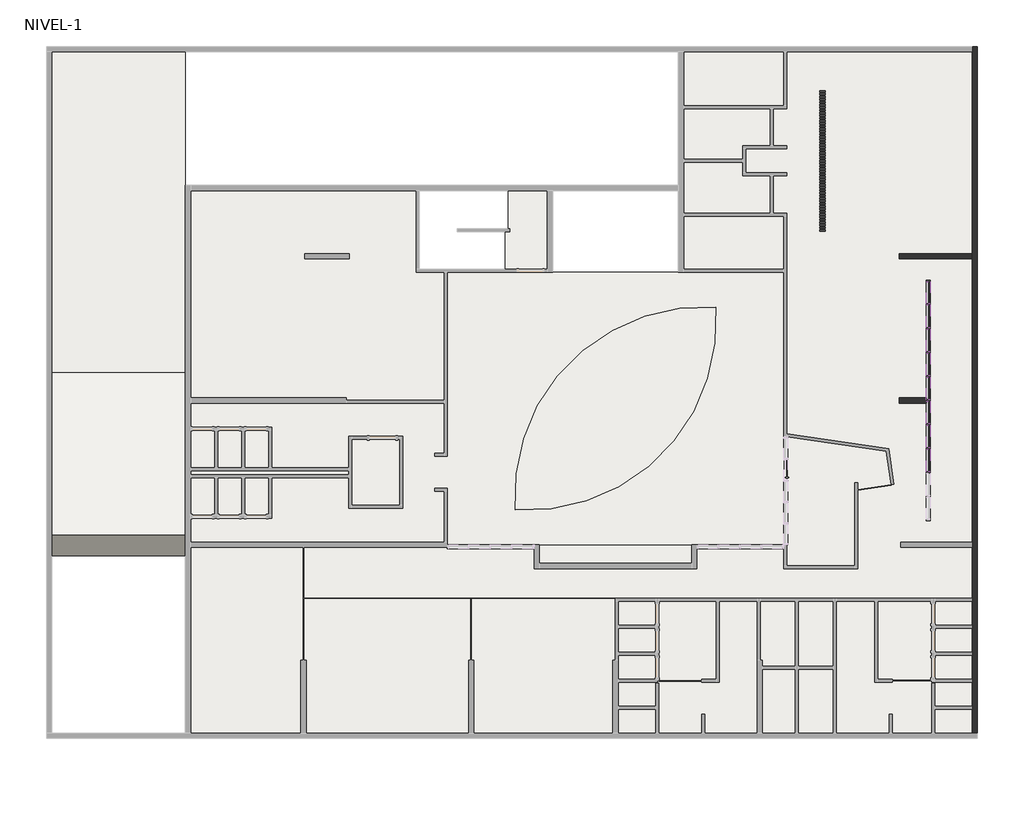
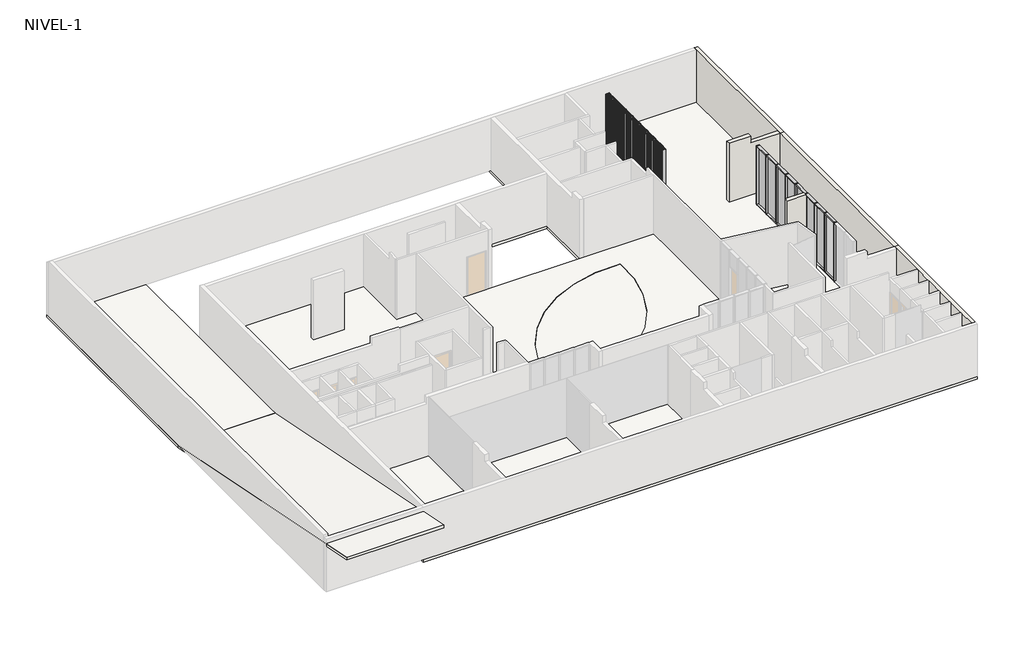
# One storey, part 4 of 4: 78 members, 7 plates, 4 slabs, 3 walls.
"""IFC4 building model written with IfcOpenShell, lengths in millimetres."""

from ifc_helpers import new_model, si_unit, point, frame, frame_2d, origin, place, context, project, spatial, polyline, circle_curve, trimmed, segment, composite_curve, outline, extrude, faceted_brep, transform, mapped, element, save
from components import rectangular_mullion_50_x_150mm_8dc60d6a, rectangular_mullion_50_x_150mm_86a57cfb, rectangular_mullion_50_x_150mm_24ac0887, rectangular_mullion_50_x_150mm_324a6438, rectangular_mullion_madera_50_x_200mm_c4610814, system_panel_glazed_17ea2be8, system_panel_glazed_1ee91bb5

model = new_model("IFC4")

# Units and contexts
model_context = context("Model", 3, world=origin())
ifc_project = project(units=[si_unit("LENGTHUNIT", "METRE", prefix="MILLI")], contexts=[model_context])

# Site, building, storey
site = spatial("IfcSite", under=ifc_project)
building = spatial("IfcBuilding", under=site)
storey = spatial("IfcBuildingStorey", under=building, Name="NIVEL-1", Elevation=-4500.0)

# Members
placement = place(None, origin())
rectangular_mullion_50_x_150mm_shape = rectangular_mullion_50_x_150mm_8dc60d6a(model_context)
element("IfcMember", 1, ObjectType="Rectangular Mullion : 50 x 150mm", at=placement, inside=storey, context=model_context, shape_type="MappedRepresentation", body=[
    mapped(rectangular_mullion_50_x_150mm_shape, transform((4516.4065252, 9583.9139237, -1170.0), x_axis=(0.0, 0.0, 1.0), y_axis=(1.0, 0.0, 0.0), z_axis=(0.0, 1.0, 0.0))),
])
element("IfcMember", 2, ObjectType="Rectangular Mullion : 50 x 150mm", at=placement, inside=storey, context=model_context, shape_type="MappedRepresentation", body=[
    mapped(rectangular_mullion_50_x_150mm_shape, transform((4516.4065252, 8758.9139241, -4520.0), x_axis=(0.0, 0.0, -1.0), y_axis=(1.0, 0.0, 0.0), z_axis=(0.0, -1.0, 0.0))),
])
rectangular_mullion_50_x_150mm_2_shape = rectangular_mullion_50_x_150mm_86a57cfb(model_context)
element("IfcMember", 3, ObjectType="Rectangular Mullion : 50 x 150mm", at=placement, inside=storey, context=model_context, shape_type="MappedRepresentation", body=[
    mapped(rectangular_mullion_50_x_150mm_2_shape, transform((4516.4065252, 2433.9139241, -4520.0), x_axis=(0.0, 1.0, 0.0), y_axis=(1.0, 0.0, 0.0), z_axis=(0.0, 0.0, -1.0))),
])
element("IfcMember", 4, ObjectType="Rectangular Mullion : 50 x 150mm", at=placement, inside=storey, context=model_context, shape_type="MappedRepresentation", body=[
    mapped(rectangular_mullion_50_x_150mm_2_shape, transform((4516.4065252, 3333.9139241, -4520.0), x_axis=(0.0, 1.0, 0.0), y_axis=(1.0, 0.0, 0.0), z_axis=(0.0, 0.0, -1.0))),
])
element("IfcMember", 5, ObjectType="Rectangular Mullion : 50 x 150mm", at=placement, inside=storey, context=model_context, shape_type="MappedRepresentation", body=[
    mapped(rectangular_mullion_50_x_150mm_2_shape, transform((4516.4065252, 4233.9139241, -4520.0), x_axis=(0.0, 1.0, 0.0), y_axis=(1.0, 0.0, 0.0), z_axis=(0.0, 0.0, -1.0))),
])
element("IfcMember", 6, ObjectType="Rectangular Mullion : 50 x 150mm", at=placement, inside=storey, context=model_context, shape_type="MappedRepresentation", body=[
    mapped(rectangular_mullion_50_x_150mm_2_shape, transform((4516.4065252, 5133.9139241, -4520.0), x_axis=(0.0, 1.0, 0.0), y_axis=(1.0, 0.0, 0.0), z_axis=(0.0, 0.0, -1.0))),
])
element("IfcMember", 7, ObjectType="Rectangular Mullion : 50 x 150mm", at=placement, inside=storey, context=model_context, shape_type="MappedRepresentation", body=[
    mapped(rectangular_mullion_50_x_150mm_2_shape, transform((4516.4065252, 6033.9139241, -4520.0), x_axis=(0.0, 1.0, 0.0), y_axis=(1.0, 0.0, 0.0), z_axis=(0.0, 0.0, -1.0))),
])
element("IfcMember", 8, ObjectType="Rectangular Mullion : 50 x 150mm", at=placement, inside=storey, context=model_context, shape_type="MappedRepresentation", body=[
    mapped(rectangular_mullion_50_x_150mm_2_shape, transform((4516.4065252, 6933.9139241, -4520.0), x_axis=(0.0, 1.0, 0.0), y_axis=(1.0, 0.0, 0.0), z_axis=(0.0, 0.0, -1.0))),
])
element("IfcMember", 9, ObjectType="Rectangular Mullion : 50 x 150mm", at=placement, inside=storey, context=model_context, shape_type="MappedRepresentation", body=[
    mapped(rectangular_mullion_50_x_150mm_2_shape, transform((4516.4065252, 7833.9139241, -4520.0), x_axis=(0.0, 1.0, 0.0), y_axis=(1.0, 0.0, 0.0), z_axis=(0.0, 0.0, -1.0))),
])
element("IfcMember", 10, ObjectType="Rectangular Mullion : 50 x 150mm", at=placement, inside=storey, context=model_context, shape_type="MappedRepresentation", body=[
    mapped(rectangular_mullion_50_x_150mm_2_shape, transform((4516.4065252, 8733.9139241, -4520.0), x_axis=(0.0, 1.0, 0.0), y_axis=(1.0, 0.0, 0.0), z_axis=(0.0, 0.0, -1.0))),
])
rectangular_mullion_50_x_150mm_3_shape = rectangular_mullion_50_x_150mm_24ac0887(model_context)
element("IfcMember", 11, ObjectType="Rectangular Mullion : 50 x 150mm", at=placement, inside=storey, context=model_context, shape_type="MappedRepresentation", body=[
    mapped(rectangular_mullion_50_x_150mm_3_shape, transform((4516.4065252, 9633.9139237, -4520.0), x_axis=(0.0, 1.0, 0.0), y_axis=(1.0, 0.0, 0.0), z_axis=(0.0, 0.0, -1.0))),
])
rectangular_mullion_50_x_150mm_4_shape = rectangular_mullion_50_x_150mm_324a6438(model_context)
element("IfcMember", 12, ObjectType="Rectangular Mullion : 50 x 150mm", at=placement, inside=storey, context=model_context, shape_type="MappedRepresentation", body=[
    mapped(rectangular_mullion_50_x_150mm_4_shape, transform((4516.4065252, 3308.9139241, -1170.0), x_axis=(0.0, 0.0, 1.0), y_axis=(1.0, 0.0, 0.0), z_axis=(0.0, 1.0, 0.0))),
])
element("IfcMember", 13, ObjectType="Rectangular Mullion : 50 x 150mm", at=placement, inside=storey, context=model_context, shape_type="MappedRepresentation", body=[
    mapped(rectangular_mullion_50_x_150mm_4_shape, transform((4516.4065252, 4208.9139241, -1170.0), x_axis=(0.0, 0.0, 1.0), y_axis=(1.0, 0.0, 0.0), z_axis=(0.0, 1.0, 0.0))),
])
element("IfcMember", 14, ObjectType="Rectangular Mullion : 50 x 150mm", at=placement, inside=storey, context=model_context, shape_type="MappedRepresentation", body=[
    mapped(rectangular_mullion_50_x_150mm_4_shape, transform((4516.4065252, 5108.9139241, -1170.0), x_axis=(0.0, 0.0, 1.0), y_axis=(1.0, 0.0, 0.0), z_axis=(0.0, 1.0, 0.0))),
])
element("IfcMember", 15, ObjectType="Rectangular Mullion : 50 x 150mm", at=placement, inside=storey, context=model_context, shape_type="MappedRepresentation", body=[
    mapped(rectangular_mullion_50_x_150mm_4_shape, transform((4516.4065252, 6008.9139241, -1170.0), x_axis=(0.0, 0.0, 1.0), y_axis=(1.0, 0.0, 0.0), z_axis=(0.0, 1.0, 0.0))),
])
element("IfcMember", 16, ObjectType="Rectangular Mullion : 50 x 150mm", at=placement, inside=storey, context=model_context, shape_type="MappedRepresentation", body=[
    mapped(rectangular_mullion_50_x_150mm_4_shape, transform((4516.4065252, 6908.9139241, -1170.0), x_axis=(0.0, 0.0, 1.0), y_axis=(1.0, 0.0, 0.0), z_axis=(0.0, 1.0, 0.0))),
])
element("IfcMember", 17, ObjectType="Rectangular Mullion : 50 x 150mm", at=placement, inside=storey, context=model_context, shape_type="MappedRepresentation", body=[
    mapped(rectangular_mullion_50_x_150mm_4_shape, transform((4516.4065252, 7808.9139241, -1170.0), x_axis=(0.0, 0.0, 1.0), y_axis=(1.0, 0.0, 0.0), z_axis=(0.0, 1.0, 0.0))),
])
element("IfcMember", 18, ObjectType="Rectangular Mullion : 50 x 150mm", at=placement, inside=storey, context=model_context, shape_type="MappedRepresentation", body=[
    mapped(rectangular_mullion_50_x_150mm_4_shape, transform((4516.4065252, 8708.9139241, -1170.0), x_axis=(0.0, 0.0, 1.0), y_axis=(1.0, 0.0, 0.0), z_axis=(0.0, 1.0, 0.0))),
])
element("IfcMember", 19, ObjectType="Rectangular Mullion : 50 x 150mm", at=placement, inside=storey, context=model_context, shape_type="MappedRepresentation", body=[
    mapped(rectangular_mullion_50_x_150mm_4_shape, transform((4516.4065252, 2458.9139241, -4520.0), x_axis=(0.0, 0.0, -1.0), y_axis=(1.0, 0.0, 0.0), z_axis=(0.0, -1.0, 0.0))),
])
element("IfcMember", 20, ObjectType="Rectangular Mullion : 50 x 150mm", at=placement, inside=storey, context=model_context, shape_type="MappedRepresentation", body=[
    mapped(rectangular_mullion_50_x_150mm_4_shape, transform((4516.4065252, 3358.9139241, -4520.0), x_axis=(0.0, 0.0, -1.0), y_axis=(1.0, 0.0, 0.0), z_axis=(0.0, -1.0, 0.0))),
])
element("IfcMember", 21, ObjectType="Rectangular Mullion : 50 x 150mm", at=placement, inside=storey, context=model_context, shape_type="MappedRepresentation", body=[
    mapped(rectangular_mullion_50_x_150mm_4_shape, transform((4516.4065252, 4258.9139241, -4520.0), x_axis=(0.0, 0.0, -1.0), y_axis=(1.0, 0.0, 0.0), z_axis=(0.0, -1.0, 0.0))),
])
element("IfcMember", 22, ObjectType="Rectangular Mullion : 50 x 150mm", at=placement, inside=storey, context=model_context, shape_type="MappedRepresentation", body=[
    mapped(rectangular_mullion_50_x_150mm_4_shape, transform((4516.4065252, 5158.9139241, -4520.0), x_axis=(0.0, 0.0, -1.0), y_axis=(1.0, 0.0, 0.0), z_axis=(0.0, -1.0, 0.0))),
])
element("IfcMember", 23, ObjectType="Rectangular Mullion : 50 x 150mm", at=placement, inside=storey, context=model_context, shape_type="MappedRepresentation", body=[
    mapped(rectangular_mullion_50_x_150mm_4_shape, transform((4516.4065252, 6058.9139241, -4520.0), x_axis=(0.0, 0.0, -1.0), y_axis=(1.0, 0.0, 0.0), z_axis=(0.0, -1.0, 0.0))),
])
element("IfcMember", 24, ObjectType="Rectangular Mullion : 50 x 150mm", at=placement, inside=storey, context=model_context, shape_type="MappedRepresentation", body=[
    mapped(rectangular_mullion_50_x_150mm_4_shape, transform((4516.4065252, 6958.9139241, -4520.0), x_axis=(0.0, 0.0, -1.0), y_axis=(1.0, 0.0, 0.0), z_axis=(0.0, -1.0, 0.0))),
])
element("IfcMember", 25, ObjectType="Rectangular Mullion : 50 x 150mm", at=placement, inside=storey, context=model_context, shape_type="MappedRepresentation", body=[
    mapped(rectangular_mullion_50_x_150mm_4_shape, transform((4516.4065252, 7858.9139241, -4520.0), x_axis=(0.0, 0.0, -1.0), y_axis=(1.0, 0.0, 0.0), z_axis=(0.0, -1.0, 0.0))),
])
rectangular_mullion_madera_50_x_200mm_shape = rectangular_mullion_madera_50_x_200mm_c4610814(model_context)
element("IfcMember", 26, ObjectType="Rectangular Mullion : MADERA 50 x 200mm", at=placement, inside=storey, context=model_context, shape_type="MappedRepresentation", body=[
    mapped(rectangular_mullion_madera_50_x_200mm_shape, transform((566.4065252, 16701.8639237, -4520.0), x_axis=(0.0, -1.0, 0.0), y_axis=(-1.0, 0.0, 0.0), z_axis=(0.0, 0.0, -1.0))),
])
element("IfcMember", 27, ObjectType="Rectangular Mullion : MADERA 50 x 200mm", at=placement, inside=storey, context=model_context, shape_type="MappedRepresentation", body=[
    mapped(rectangular_mullion_madera_50_x_200mm_shape, transform((566.4065252, 16601.8639237, -4520.0), x_axis=(0.0, -1.0, 0.0), y_axis=(-1.0, 0.0, 0.0), z_axis=(0.0, 0.0, -1.0))),
])
element("IfcMember", 28, ObjectType="Rectangular Mullion : MADERA 50 x 200mm", at=placement, inside=storey, context=model_context, shape_type="MappedRepresentation", body=[
    mapped(rectangular_mullion_madera_50_x_200mm_shape, transform((566.4065252, 16501.8639237, -4520.0), x_axis=(0.0, -1.0, 0.0), y_axis=(-1.0, 0.0, 0.0), z_axis=(0.0, 0.0, -1.0))),
])
element("IfcMember", 29, ObjectType="Rectangular Mullion : MADERA 50 x 200mm", at=placement, inside=storey, context=model_context, shape_type="MappedRepresentation", body=[
    mapped(rectangular_mullion_madera_50_x_200mm_shape, transform((566.4065252, 16401.8639237, -4520.0), x_axis=(0.0, -1.0, 0.0), y_axis=(-1.0, 0.0, 0.0), z_axis=(0.0, 0.0, -1.0))),
])
element("IfcMember", 30, ObjectType="Rectangular Mullion : MADERA 50 x 200mm", at=placement, inside=storey, context=model_context, shape_type="MappedRepresentation", body=[
    mapped(rectangular_mullion_madera_50_x_200mm_shape, transform((566.4065252, 16301.8639237, -4520.0), x_axis=(0.0, -1.0, 0.0), y_axis=(-1.0, 0.0, 0.0), z_axis=(0.0, 0.0, -1.0))),
])
element("IfcMember", 31, ObjectType="Rectangular Mullion : MADERA 50 x 200mm", at=placement, inside=storey, context=model_context, shape_type="MappedRepresentation", body=[
    mapped(rectangular_mullion_madera_50_x_200mm_shape, transform((566.4065252, 16201.8639237, -4520.0), x_axis=(0.0, -1.0, 0.0), y_axis=(-1.0, 0.0, 0.0), z_axis=(0.0, 0.0, -1.0))),
])
element("IfcMember", 32, ObjectType="Rectangular Mullion : MADERA 50 x 200mm", at=placement, inside=storey, context=model_context, shape_type="MappedRepresentation", body=[
    mapped(rectangular_mullion_madera_50_x_200mm_shape, transform((566.4065252, 16101.8639237, -4520.0), x_axis=(0.0, -1.0, 0.0), y_axis=(-1.0, 0.0, 0.0), z_axis=(0.0, 0.0, -1.0))),
])
element("IfcMember", 33, ObjectType="Rectangular Mullion : MADERA 50 x 200mm", at=placement, inside=storey, context=model_context, shape_type="MappedRepresentation", body=[
    mapped(rectangular_mullion_madera_50_x_200mm_shape, transform((566.4065252, 16001.8639237, -4520.0), x_axis=(0.0, -1.0, 0.0), y_axis=(-1.0, 0.0, 0.0), z_axis=(0.0, 0.0, -1.0))),
])
element("IfcMember", 34, ObjectType="Rectangular Mullion : MADERA 50 x 200mm", at=placement, inside=storey, context=model_context, shape_type="MappedRepresentation", body=[
    mapped(rectangular_mullion_madera_50_x_200mm_shape, transform((566.4065252, 15901.8639237, -4520.0), x_axis=(0.0, -1.0, 0.0), y_axis=(-1.0, 0.0, 0.0), z_axis=(0.0, 0.0, -1.0))),
])
element("IfcMember", 35, ObjectType="Rectangular Mullion : MADERA 50 x 200mm", at=placement, inside=storey, context=model_context, shape_type="MappedRepresentation", body=[
    mapped(rectangular_mullion_madera_50_x_200mm_shape, transform((566.4065252, 15801.8639237, -4520.0), x_axis=(0.0, -1.0, 0.0), y_axis=(-1.0, 0.0, 0.0), z_axis=(0.0, 0.0, -1.0))),
])
element("IfcMember", 36, ObjectType="Rectangular Mullion : MADERA 50 x 200mm", at=placement, inside=storey, context=model_context, shape_type="MappedRepresentation", body=[
    mapped(rectangular_mullion_madera_50_x_200mm_shape, transform((566.4065252, 15701.8639237, -4520.0), x_axis=(0.0, -1.0, 0.0), y_axis=(-1.0, 0.0, 0.0), z_axis=(0.0, 0.0, -1.0))),
])
element("IfcMember", 37, ObjectType="Rectangular Mullion : MADERA 50 x 200mm", at=placement, inside=storey, context=model_context, shape_type="MappedRepresentation", body=[
    mapped(rectangular_mullion_madera_50_x_200mm_shape, transform((566.4065252, 15601.8639237, -4520.0), x_axis=(0.0, -1.0, 0.0), y_axis=(-1.0, 0.0, 0.0), z_axis=(0.0, 0.0, -1.0))),
])
element("IfcMember", 38, ObjectType="Rectangular Mullion : MADERA 50 x 200mm", at=placement, inside=storey, context=model_context, shape_type="MappedRepresentation", body=[
    mapped(rectangular_mullion_madera_50_x_200mm_shape, transform((566.4065252, 15501.8639237, -4520.0), x_axis=(0.0, -1.0, 0.0), y_axis=(-1.0, 0.0, 0.0), z_axis=(0.0, 0.0, -1.0))),
])
element("IfcMember", 39, ObjectType="Rectangular Mullion : MADERA 50 x 200mm", at=placement, inside=storey, context=model_context, shape_type="MappedRepresentation", body=[
    mapped(rectangular_mullion_madera_50_x_200mm_shape, transform((566.4065252, 15401.8639237, -4520.0), x_axis=(0.0, -1.0, 0.0), y_axis=(-1.0, 0.0, 0.0), z_axis=(0.0, 0.0, -1.0))),
])
element("IfcMember", 40, ObjectType="Rectangular Mullion : MADERA 50 x 200mm", at=placement, inside=storey, context=model_context, shape_type="MappedRepresentation", body=[
    mapped(rectangular_mullion_madera_50_x_200mm_shape, transform((566.4065252, 15301.8639237, -4520.0), x_axis=(0.0, -1.0, 0.0), y_axis=(-1.0, 0.0, 0.0), z_axis=(0.0, 0.0, -1.0))),
])
element("IfcMember", 41, ObjectType="Rectangular Mullion : MADERA 50 x 200mm", at=placement, inside=storey, context=model_context, shape_type="MappedRepresentation", body=[
    mapped(rectangular_mullion_madera_50_x_200mm_shape, transform((566.4065252, 15201.8639237, -4520.0), x_axis=(0.0, -1.0, 0.0), y_axis=(-1.0, 0.0, 0.0), z_axis=(0.0, 0.0, -1.0))),
])
element("IfcMember", 42, ObjectType="Rectangular Mullion : MADERA 50 x 200mm", at=placement, inside=storey, context=model_context, shape_type="MappedRepresentation", body=[
    mapped(rectangular_mullion_madera_50_x_200mm_shape, transform((566.4065252, 15101.8639237, -4520.0), x_axis=(0.0, -1.0, 0.0), y_axis=(-1.0, 0.0, 0.0), z_axis=(0.0, 0.0, -1.0))),
])
element("IfcMember", 43, ObjectType="Rectangular Mullion : MADERA 50 x 200mm", at=placement, inside=storey, context=model_context, shape_type="MappedRepresentation", body=[
    mapped(rectangular_mullion_madera_50_x_200mm_shape, transform((566.4065252, 15001.8639237, -4520.0), x_axis=(0.0, -1.0, 0.0), y_axis=(-1.0, 0.0, 0.0), z_axis=(0.0, 0.0, -1.0))),
])
element("IfcMember", 44, ObjectType="Rectangular Mullion : MADERA 50 x 200mm", at=placement, inside=storey, context=model_context, shape_type="MappedRepresentation", body=[
    mapped(rectangular_mullion_madera_50_x_200mm_shape, transform((566.4065252, 14901.8639237, -4520.0), x_axis=(0.0, -1.0, 0.0), y_axis=(-1.0, 0.0, 0.0), z_axis=(0.0, 0.0, -1.0))),
])
element("IfcMember", 45, ObjectType="Rectangular Mullion : MADERA 50 x 200mm", at=placement, inside=storey, context=model_context, shape_type="MappedRepresentation", body=[
    mapped(rectangular_mullion_madera_50_x_200mm_shape, transform((566.4065252, 14801.8639237, -4520.0), x_axis=(0.0, -1.0, 0.0), y_axis=(-1.0, 0.0, 0.0), z_axis=(0.0, 0.0, -1.0))),
])
element("IfcMember", 46, ObjectType="Rectangular Mullion : MADERA 50 x 200mm", at=placement, inside=storey, context=model_context, shape_type="MappedRepresentation", body=[
    mapped(rectangular_mullion_madera_50_x_200mm_shape, transform((566.4065252, 14701.8639237, -4520.0), x_axis=(0.0, -1.0, 0.0), y_axis=(-1.0, 0.0, 0.0), z_axis=(0.0, 0.0, -1.0))),
])
element("IfcMember", 47, ObjectType="Rectangular Mullion : MADERA 50 x 200mm", at=placement, inside=storey, context=model_context, shape_type="MappedRepresentation", body=[
    mapped(rectangular_mullion_madera_50_x_200mm_shape, transform((566.4065252, 14601.8639237, -4520.0), x_axis=(0.0, -1.0, 0.0), y_axis=(-1.0, 0.0, 0.0), z_axis=(0.0, 0.0, -1.0))),
])
element("IfcMember", 48, ObjectType="Rectangular Mullion : MADERA 50 x 200mm", at=placement, inside=storey, context=model_context, shape_type="MappedRepresentation", body=[
    mapped(rectangular_mullion_madera_50_x_200mm_shape, transform((566.4065252, 14501.8639237, -4520.0), x_axis=(0.0, -1.0, 0.0), y_axis=(-1.0, 0.0, 0.0), z_axis=(0.0, 0.0, -1.0))),
])
element("IfcMember", 49, ObjectType="Rectangular Mullion : MADERA 50 x 200mm", at=placement, inside=storey, context=model_context, shape_type="MappedRepresentation", body=[
    mapped(rectangular_mullion_madera_50_x_200mm_shape, transform((566.4065252, 14401.8639237, -4520.0), x_axis=(0.0, -1.0, 0.0), y_axis=(-1.0, 0.0, 0.0), z_axis=(0.0, 0.0, -1.0))),
])
element("IfcMember", 50, ObjectType="Rectangular Mullion : MADERA 50 x 200mm", at=placement, inside=storey, context=model_context, shape_type="MappedRepresentation", body=[
    mapped(rectangular_mullion_madera_50_x_200mm_shape, transform((566.4065252, 14301.8639237, -4520.0), x_axis=(0.0, -1.0, 0.0), y_axis=(-1.0, 0.0, 0.0), z_axis=(0.0, 0.0, -1.0))),
])
element("IfcMember", 51, ObjectType="Rectangular Mullion : MADERA 50 x 200mm", at=placement, inside=storey, context=model_context, shape_type="MappedRepresentation", body=[
    mapped(rectangular_mullion_madera_50_x_200mm_shape, transform((566.4065252, 14201.8639237, -4520.0), x_axis=(0.0, -1.0, 0.0), y_axis=(-1.0, 0.0, 0.0), z_axis=(0.0, 0.0, -1.0))),
])
element("IfcMember", 52, ObjectType="Rectangular Mullion : MADERA 50 x 200mm", at=placement, inside=storey, context=model_context, shape_type="MappedRepresentation", body=[
    mapped(rectangular_mullion_madera_50_x_200mm_shape, transform((566.4065252, 14101.8639237, -4520.0), x_axis=(0.0, -1.0, 0.0), y_axis=(-1.0, 0.0, 0.0), z_axis=(0.0, 0.0, -1.0))),
])
element("IfcMember", 53, ObjectType="Rectangular Mullion : MADERA 50 x 200mm", at=placement, inside=storey, context=model_context, shape_type="MappedRepresentation", body=[
    mapped(rectangular_mullion_madera_50_x_200mm_shape, transform((566.4065252, 14001.8639237, -4520.0), x_axis=(0.0, -1.0, 0.0), y_axis=(-1.0, 0.0, 0.0), z_axis=(0.0, 0.0, -1.0))),
])
element("IfcMember", 54, ObjectType="Rectangular Mullion : MADERA 50 x 200mm", at=placement, inside=storey, context=model_context, shape_type="MappedRepresentation", body=[
    mapped(rectangular_mullion_madera_50_x_200mm_shape, transform((566.4065252, 13901.8639237, -4520.0), x_axis=(0.0, -1.0, 0.0), y_axis=(-1.0, 0.0, 0.0), z_axis=(0.0, 0.0, -1.0))),
])
element("IfcMember", 55, ObjectType="Rectangular Mullion : MADERA 50 x 200mm", at=placement, inside=storey, context=model_context, shape_type="MappedRepresentation", body=[
    mapped(rectangular_mullion_madera_50_x_200mm_shape, transform((566.4065252, 13801.8639237, -4520.0), x_axis=(0.0, -1.0, 0.0), y_axis=(-1.0, 0.0, 0.0), z_axis=(0.0, 0.0, -1.0))),
])
element("IfcMember", 56, ObjectType="Rectangular Mullion : MADERA 50 x 200mm", at=placement, inside=storey, context=model_context, shape_type="MappedRepresentation", body=[
    mapped(rectangular_mullion_madera_50_x_200mm_shape, transform((566.4065252, 13701.8639237, -4520.0), x_axis=(0.0, -1.0, 0.0), y_axis=(-1.0, 0.0, 0.0), z_axis=(0.0, 0.0, -1.0))),
])
element("IfcMember", 57, ObjectType="Rectangular Mullion : MADERA 50 x 200mm", at=placement, inside=storey, context=model_context, shape_type="MappedRepresentation", body=[
    mapped(rectangular_mullion_madera_50_x_200mm_shape, transform((566.4065252, 13601.8639237, -4520.0), x_axis=(0.0, -1.0, 0.0), y_axis=(-1.0, 0.0, 0.0), z_axis=(0.0, 0.0, -1.0))),
])
element("IfcMember", 58, ObjectType="Rectangular Mullion : MADERA 50 x 200mm", at=placement, inside=storey, context=model_context, shape_type="MappedRepresentation", body=[
    mapped(rectangular_mullion_madera_50_x_200mm_shape, transform((566.4065252, 13501.8639237, -4520.0), x_axis=(0.0, -1.0, 0.0), y_axis=(-1.0, 0.0, 0.0), z_axis=(0.0, 0.0, -1.0))),
])
element("IfcMember", 59, ObjectType="Rectangular Mullion : MADERA 50 x 200mm", at=placement, inside=storey, context=model_context, shape_type="MappedRepresentation", body=[
    mapped(rectangular_mullion_madera_50_x_200mm_shape, transform((566.4065252, 13401.8639237, -4520.0), x_axis=(0.0, -1.0, 0.0), y_axis=(-1.0, 0.0, 0.0), z_axis=(0.0, 0.0, -1.0))),
])
element("IfcMember", 60, ObjectType="Rectangular Mullion : MADERA 50 x 200mm", at=placement, inside=storey, context=model_context, shape_type="MappedRepresentation", body=[
    mapped(rectangular_mullion_madera_50_x_200mm_shape, transform((566.4065252, 13301.8639237, -4520.0), x_axis=(0.0, -1.0, 0.0), y_axis=(-1.0, 0.0, 0.0), z_axis=(0.0, 0.0, -1.0))),
])
element("IfcMember", 61, ObjectType="Rectangular Mullion : MADERA 50 x 200mm", at=placement, inside=storey, context=model_context, shape_type="MappedRepresentation", body=[
    mapped(rectangular_mullion_madera_50_x_200mm_shape, transform((566.4065252, 13201.8639237, -4520.0), x_axis=(0.0, -1.0, 0.0), y_axis=(-1.0, 0.0, 0.0), z_axis=(0.0, 0.0, -1.0))),
])
element("IfcMember", 62, ObjectType="Rectangular Mullion : MADERA 50 x 200mm", at=placement, inside=storey, context=model_context, shape_type="MappedRepresentation", body=[
    mapped(rectangular_mullion_madera_50_x_200mm_shape, transform((566.4065252, 13101.8639237, -4520.0), x_axis=(0.0, -1.0, 0.0), y_axis=(-1.0, 0.0, 0.0), z_axis=(0.0, 0.0, -1.0))),
])
element("IfcMember", 63, ObjectType="Rectangular Mullion : MADERA 50 x 200mm", at=placement, inside=storey, context=model_context, shape_type="MappedRepresentation", body=[
    mapped(rectangular_mullion_madera_50_x_200mm_shape, transform((566.4065252, 13001.8639237, -4520.0), x_axis=(0.0, -1.0, 0.0), y_axis=(-1.0, 0.0, 0.0), z_axis=(0.0, 0.0, -1.0))),
])
element("IfcMember", 64, ObjectType="Rectangular Mullion : MADERA 50 x 200mm", at=placement, inside=storey, context=model_context, shape_type="MappedRepresentation", body=[
    mapped(rectangular_mullion_madera_50_x_200mm_shape, transform((566.4065252, 12901.8639237, -4520.0), x_axis=(0.0, -1.0, 0.0), y_axis=(-1.0, 0.0, 0.0), z_axis=(0.0, 0.0, -1.0))),
])
element("IfcMember", 65, ObjectType="Rectangular Mullion : MADERA 50 x 200mm", at=placement, inside=storey, context=model_context, shape_type="MappedRepresentation", body=[
    mapped(rectangular_mullion_madera_50_x_200mm_shape, transform((566.4065252, 12801.8639237, -4520.0), x_axis=(0.0, -1.0, 0.0), y_axis=(-1.0, 0.0, 0.0), z_axis=(0.0, 0.0, -1.0))),
])
element("IfcMember", 66, ObjectType="Rectangular Mullion : MADERA 50 x 200mm", at=placement, inside=storey, context=model_context, shape_type="MappedRepresentation", body=[
    mapped(rectangular_mullion_madera_50_x_200mm_shape, transform((566.4065252, 12701.8639237, -4520.0), x_axis=(0.0, -1.0, 0.0), y_axis=(-1.0, 0.0, 0.0), z_axis=(0.0, 0.0, -1.0))),
])
element("IfcMember", 67, ObjectType="Rectangular Mullion : MADERA 50 x 200mm", at=placement, inside=storey, context=model_context, shape_type="MappedRepresentation", body=[
    mapped(rectangular_mullion_madera_50_x_200mm_shape, transform((566.4065252, 12601.8639237, -4520.0), x_axis=(0.0, -1.0, 0.0), y_axis=(-1.0, 0.0, 0.0), z_axis=(0.0, 0.0, -1.0))),
])
element("IfcMember", 68, ObjectType="Rectangular Mullion : MADERA 50 x 200mm", at=placement, inside=storey, context=model_context, shape_type="MappedRepresentation", body=[
    mapped(rectangular_mullion_madera_50_x_200mm_shape, transform((566.4065252, 12501.8639237, -4520.0), x_axis=(0.0, -1.0, 0.0), y_axis=(-1.0, 0.0, 0.0), z_axis=(0.0, 0.0, -1.0))),
])
element("IfcMember", 69, ObjectType="Rectangular Mullion : MADERA 50 x 200mm", at=placement, inside=storey, context=model_context, shape_type="MappedRepresentation", body=[
    mapped(rectangular_mullion_madera_50_x_200mm_shape, transform((566.4065252, 12401.8639237, -4520.0), x_axis=(0.0, -1.0, 0.0), y_axis=(-1.0, 0.0, 0.0), z_axis=(0.0, 0.0, -1.0))),
])
element("IfcMember", 70, ObjectType="Rectangular Mullion : MADERA 50 x 200mm", at=placement, inside=storey, context=model_context, shape_type="MappedRepresentation", body=[
    mapped(rectangular_mullion_madera_50_x_200mm_shape, transform((566.4065252, 12301.8639237, -4520.0), x_axis=(0.0, -1.0, 0.0), y_axis=(-1.0, 0.0, 0.0), z_axis=(0.0, 0.0, -1.0))),
])
element("IfcMember", 71, ObjectType="Rectangular Mullion : MADERA 50 x 200mm", at=placement, inside=storey, context=model_context, shape_type="MappedRepresentation", body=[
    mapped(rectangular_mullion_madera_50_x_200mm_shape, transform((566.4065252, 12201.8639237, -4520.0), x_axis=(0.0, -1.0, 0.0), y_axis=(-1.0, 0.0, 0.0), z_axis=(0.0, 0.0, -1.0))),
])
element("IfcMember", 72, ObjectType="Rectangular Mullion : MADERA 50 x 200mm", at=placement, inside=storey, context=model_context, shape_type="MappedRepresentation", body=[
    mapped(rectangular_mullion_madera_50_x_200mm_shape, transform((566.4065252, 12101.8639237, -4520.0), x_axis=(0.0, -1.0, 0.0), y_axis=(-1.0, 0.0, 0.0), z_axis=(0.0, 0.0, -1.0))),
])
element("IfcMember", 73, ObjectType="Rectangular Mullion : MADERA 50 x 200mm", at=placement, inside=storey, context=model_context, shape_type="MappedRepresentation", body=[
    mapped(rectangular_mullion_madera_50_x_200mm_shape, transform((566.4065252, 12001.8639237, -4520.0), x_axis=(0.0, -1.0, 0.0), y_axis=(-1.0, 0.0, 0.0), z_axis=(0.0, 0.0, -1.0))),
])
element("IfcMember", 74, ObjectType="Rectangular Mullion : MADERA 50 x 200mm", at=placement, inside=storey, context=model_context, shape_type="MappedRepresentation", body=[
    mapped(rectangular_mullion_madera_50_x_200mm_shape, transform((566.4065252, 11901.8639237, -4520.0), x_axis=(0.0, -1.0, 0.0), y_axis=(-1.0, 0.0, 0.0), z_axis=(0.0, 0.0, -1.0))),
])
element("IfcMember", 75, ObjectType="Rectangular Mullion : MADERA 50 x 200mm", at=placement, inside=storey, context=model_context, shape_type="MappedRepresentation", body=[
    mapped(rectangular_mullion_madera_50_x_200mm_shape, transform((566.4065252, 11801.8639237, -4520.0), x_axis=(0.0, -1.0, 0.0), y_axis=(-1.0, 0.0, 0.0), z_axis=(0.0, 0.0, -1.0))),
])
element("IfcMember", 76, ObjectType="Rectangular Mullion : MADERA 50 x 200mm", at=placement, inside=storey, context=model_context, shape_type="MappedRepresentation", body=[
    mapped(rectangular_mullion_madera_50_x_200mm_shape, transform((566.4065252, 11701.8639237, -4520.0), x_axis=(0.0, -1.0, 0.0), y_axis=(-1.0, 0.0, 0.0), z_axis=(0.0, 0.0, -1.0))),
])
element("IfcMember", 77, ObjectType="Rectangular Mullion : MADERA 50 x 200mm", at=placement, inside=storey, context=model_context, shape_type="MappedRepresentation", body=[
    mapped(rectangular_mullion_madera_50_x_200mm_shape, transform((566.4065252, 11601.8639237, -4520.0), x_axis=(0.0, -1.0, 0.0), y_axis=(-1.0, 0.0, 0.0), z_axis=(0.0, 0.0, -1.0))),
])
element("IfcMember", 78, ObjectType="Rectangular Mullion : MADERA 50 x 200mm", at=placement, inside=storey, context=model_context, shape_type="MappedRepresentation", body=[
    mapped(rectangular_mullion_madera_50_x_200mm_shape, transform((566.4065252, 11501.8639237, -4520.0), x_axis=(0.0, -1.0, 0.0), y_axis=(-1.0, 0.0, 0.0), z_axis=(0.0, 0.0, -1.0))),
])

# Plates
system_panel_glazed_shape = system_panel_glazed_17ea2be8(model_context)
element("IfcPlate", 79, ObjectType="System Panel : Glazed", at=placement, inside=storey, context=model_context, shape_type="MappedRepresentation", body=[
    mapped(system_panel_glazed_shape, transform((4516.4065252, 9171.4139239, -4470.0), x_axis=(0.0, 1.0, 0.0), y_axis=(-1.0, 0.0, 0.0), z_axis=(0.0, 0.0, 1.0))),
])
system_panel_glazed_2_shape = system_panel_glazed_1ee91bb5(model_context)
element("IfcPlate", 80, ObjectType="System Panel : Glazed", at=placement, inside=storey, context=model_context, shape_type="MappedRepresentation", body=[
    mapped(system_panel_glazed_2_shape, transform((4516.4065252, 3783.9139241, -4470.0), x_axis=(0.0, 1.0, 0.0), y_axis=(-1.0, 0.0, 0.0), z_axis=(0.0, 0.0, 1.0))),
])
element("IfcPlate", 81, ObjectType="System Panel : Glazed", at=placement, inside=storey, context=model_context, shape_type="MappedRepresentation", body=[
    mapped(system_panel_glazed_2_shape, transform((4516.4065252, 4683.9139241, -4470.0), x_axis=(0.0, 1.0, 0.0), y_axis=(-1.0, 0.0, 0.0), z_axis=(0.0, 0.0, 1.0))),
])
element("IfcPlate", 82, ObjectType="System Panel : Glazed", at=placement, inside=storey, context=model_context, shape_type="MappedRepresentation", body=[
    mapped(system_panel_glazed_2_shape, transform((4516.4065252, 5583.9139241, -4470.0), x_axis=(0.0, 1.0, 0.0), y_axis=(-1.0, 0.0, 0.0), z_axis=(0.0, 0.0, 1.0))),
])
element("IfcPlate", 83, ObjectType="System Panel : Glazed", at=placement, inside=storey, context=model_context, shape_type="MappedRepresentation", body=[
    mapped(system_panel_glazed_2_shape, transform((4516.4065252, 6483.9139241, -4470.0), x_axis=(0.0, 1.0, 0.0), y_axis=(-1.0, 0.0, 0.0), z_axis=(0.0, 0.0, 1.0))),
])
element("IfcPlate", 84, ObjectType="System Panel : Glazed", at=placement, inside=storey, context=model_context, shape_type="MappedRepresentation", body=[
    mapped(system_panel_glazed_2_shape, transform((4516.4065252, 7383.9139241, -4470.0), x_axis=(0.0, 1.0, 0.0), y_axis=(-1.0, 0.0, 0.0), z_axis=(0.0, 0.0, 1.0))),
])
element("IfcPlate", 85, ObjectType="System Panel : Glazed", at=placement, inside=storey, context=model_context, shape_type="MappedRepresentation", body=[
    mapped(system_panel_glazed_2_shape, transform((4516.4065252, 8283.9139241, -4470.0), x_axis=(0.0, 1.0, 0.0), y_axis=(-1.0, 0.0, 0.0), z_axis=(0.0, 0.0, 1.0))),
])

# Slabs
element("IfcSlab", 86, ObjectType="PAV-PORCELANATO PUBLICO", at=placement, inside=storey, context=model_context, shape_type="SweptSolid", body=[
    extrude(outline(polyline([(-23084.3934748, 733.9139241), (-23034.3934748, 733.9139241), (-23034.3934748, 843.9139241), (-23084.3934748, 843.9139241), (-23084.3934748, 2248.9139241), (-22184.3934748, 2248.9139241), (-22184.3934748, 843.9139241), (-22284.3934748, 843.9139241), (-22284.3934748, 733.9139241), (-22024.3934748, 733.9139241), (-22024.3934748, 843.9139241), (-22074.3934748, 843.9139241), (-22074.3934748, 2248.9139241), (-21174.3934748, 2248.9139241), (-21174.3934748, 843.9139241), (-21274.3934748, 843.9139241), (-21274.3934748, 733.9139241), (-21014.3934748, 733.9139241), (-21014.3934748, 843.9139241), (-21064.3934748, 843.9139241), (-21064.3934748, 2248.9139241), (-20164.3934748, 2248.9139241), (-20164.3934748, 843.9139241), (-20264.3934748, 843.9139241), (-20264.3934748, 733.9139241), (-20054.3934748, 733.9139241), (-20054.3934748, 2248.9139241), (-17163.5934748, 2248.9139241), (-17163.5934748, 1093.9139241), (-15143.5934748, 1093.9139241), (-15143.5934748, 3788.9139241), (-15403.5934748, 3788.9139241), (-15403.5934748, 3733.9139241), (-16403.5934748, 3733.9139241), (-16403.5934748, 3788.9139241), (-17163.5934748, 3788.9139241), (-17163.5934748, 2618.9139241), (-20054.3934748, 2618.9139241), (-20054.3934748, 4133.9139241), (-20264.3934748, 4133.9139241), (-20264.3934748, 4023.9139241), (-20164.3934748, 4023.9139241), (-20164.3934748, 2618.9139241), (-21064.3934748, 2618.9139241), (-21064.3934748, 4023.9139241), (-21014.3934748, 4023.9139241), (-21014.3934748, 4133.9139241), (-21274.3934748, 4133.9139241), (-21274.3934748, 4023.9139241), (-21174.3934748, 4023.9139241), (-21174.3934748, 2618.9139241), (-22074.3934748, 2618.9139241), (-22074.3934748, 4023.9139241), (-22024.3934748, 4023.9139241), (-22024.3934748, 4133.9139241), (-22284.3934748, 4133.9139241), (-22284.3934748, 4023.9139241), (-22184.3934748, 4023.9139241), (-22184.3934748, 2618.9139241), (-23084.3934748, 2618.9139241), (-23084.3934748, 4023.9139241), (-23034.3934748, 4023.9139241), (-23034.3934748, 4133.9139241), (-23084.3934748, 4133.9139241), (-23084.3934748, 5033.9139241), (-13593.5934748, 5033.9139241), (-13593.5934748, 3151.4139241), (-13943.5934748, 3151.4139241), (-13943.5934748, 3041.4139241), (-13483.5934748, 3041.4139241), (-13483.5934748, 9933.9139241), (-883.5934748, 9933.9139241), (-883.5934748, -266.0860759), (-13483.5934748, -266.0860759), (-13483.5934748, 1841.4139241), (-13943.5934748, 1841.4139241), (-13943.5934748, 1731.4139241), (-13593.5934748, 1731.4139241), (-13593.5934748, -166.0860759), (-23084.3934748, -166.0860759), (-23084.3934748, 733.9139241)]), holes=[composite_curve([segment(trimmed(circle_curve(frame_2d((-3900.8956512, 1587.773315)), 7047.9310964), [point((-3439.1164565, 8620.5602956))], [point((-10928.0704932, 1047.2675525))], True, "CARTESIAN"), True, "CONTINUOUS"), segment(trimmed(circle_curve(frame_2d((-10466.2912985, 8080.0545331)), 7047.9310964), [point((-10928.0704932, 1047.2675525))], [point((-3439.1164565, 8620.5602956))], True, "CARTESIAN"), True, "CONTINUOUS")], self_intersect=False)]), frame((0.0, 0.0, -4520.0), z_axis=(0.0, 0.0, 1.0), x_axis=(1.0, 0.0, 0.0)), (0.0, 0.0, 1.0), 20.0),
])
element("IfcSlab", 87, ObjectType="PAV-PORCELANATO BAÑOS", at=placement, inside=storey, context=model_context, shape_type="SweptSolid", body=[
    extrude(outline(polyline([(-15403.5934748, 3733.9139241), (-15403.5934748, 3678.9139241), (-15253.5934748, 3678.9139241), (-15253.5934748, 1203.9139241), (-17053.5934748, 1203.9139241), (-17053.5934748, 3678.9139241), (-16403.5934748, 3678.9139241), (-16403.5934748, 3733.9139241), (-15403.5934748, 3733.9139241)])), frame((0.0, 0.0, -4520.0), z_axis=(0.0, 0.0, 1.0), x_axis=(1.0, 0.0, 0.0)), (0.0, 0.0, 1.0), 20.0),
])
element("IfcSlab", 88, ObjectType="LOSA-150mm", at=placement, inside=storey, context=model_context, shape_type="SweptSolid", body=[
    extrude(outline(polyline([(6366.4065252, 18384.7139241), (6366.4065252, -7516.0860759), (-23284.3934748, -7516.0860759), (-23284.3934748, 6183.9139241), (-28484.3934748, 6183.9139241), (-28484.3934748, 18384.7139241), (-23284.3934748, 18384.7139241), (-23284.3934748, 13184.7139241), (-4833.5934748, 13184.7139241), (-4833.5934748, 18384.7139241), (6366.4065252, 18384.7139241)]), holes=[polyline([(-11223.9934748, 12984.7139241), (-14524.3934748, 12984.7139241), (-14524.3934748, 10043.9139241), (-11323.9934748, 10043.9139241), (-11323.9934748, 11459.3139241), (-11223.9934748, 11459.3139241), (-11223.9934748, 12984.7139241)]), polyline([(-4833.5934748, 12984.7139241), (-9533.5934748, 12984.7139241), (-9533.5934748, 9933.9139241), (-4833.5934748, 9933.9139241), (-4833.5934748, 12984.7139241)])]), frame((0.0, 0.0, -4670.0), z_axis=(0.0, 0.0, 1.0), x_axis=(1.0, 0.0, 0.0)), (0.0, 0.0, 1.0), 150.0),
])
element("IfcSlab", 89, ObjectType="LOSA-150mm", at=placement, inside=storey, context=model_context, shape_type="SweptSolid", body=[
    extrude(outline(polyline([(6183.9139241, -4672.9705854), (-9416.0860759, -1552.9705854), (-9416.0860759, -1400.0), (6183.9139241, -4520.0), (6183.9139241, -4672.9705854)])), frame((-28484.3934748, 0.0, 0.0), z_axis=(1.0, 0.0, 0.0), x_axis=(0.0, 1.0, 0.0)), (0.0, 0.0, 1.0), 5200.0),
])

# Walls
element("IfcWall", 90, ObjectType="HA-200mm", at=placement, inside=storey, context=model_context, shape_type="Brep", body=[
    faceted_brep([(6366.4065252, -7316.0860759, -4520.0), (6366.4065252, 18384.7139241, -4520.0), (6366.4065252, 18384.7139241, -1550.0), (6366.4065252, 10433.9139241, -1550.0), (6366.4065252, -166.0860759, -1550.0), (6366.4065252, -7316.0860759, -1550.0), (6166.4065252, -7316.0860759, -4520.0), (6166.4065252, -7316.0860759, -1550.0), (6166.4065252, -6430.0860759, -1550.0), (6166.4065252, -6320.0860759, -1550.0), (6166.4065252, -5406.0860759, -1550.0), (6166.4065252, -5296.0860759, -1550.0), (6166.4065252, -4396.0860759, -1550.0), (6166.4065252, -4286.0860759, -1550.0), (6166.4065252, -3386.0860759, -1550.0), (6166.4065252, -3276.0860759, -1550.0), (6166.4065252, -2376.0860759, -1550.0), (6166.4065252, -2266.0860759, -1550.0), (6166.4065252, -366.0860759, -1550.0), (6166.4065252, -166.0860759, -1550.0), (6166.4065252, 10433.9139241, -1550.0), (6166.4065252, 10633.9139241, -1550.0), (6166.4065252, 18184.7139241, -1550.0), (6166.4065252, 18384.7139241, -1550.0), (6166.4065252, 18384.7139241, -4520.0), (6166.4065252, 18184.7139241, -4520.0), (6166.4065252, 10633.9139241, -4520.0), (6166.4065252, 10433.9139241, -4520.0), (6166.4065252, -166.0860759, -4520.0), (6166.4065252, -366.0860759, -4520.0), (6166.4065252, -2266.0860759, -4520.0), (6166.4065252, -2376.0860759, -4520.0), (6166.4065252, -3276.0860759, -4520.0), (6166.4065252, -3386.0860759, -4520.0), (6166.4065252, -4286.0860759, -4520.0), (6166.4065252, -4396.0860759, -4520.0), (6166.4065252, -5296.0860759, -4520.0), (6166.4065252, -5406.0860759, -4520.0), (6166.4065252, -6320.0860759, -4520.0), (6166.4065252, -6430.0860759, -4520.0)], [[[0, 1, 2, 3, 4, 5]], [[6, 7, 8, 9, 10, 11, 12, 13, 14, 15, 16, 17, 18, 19, 20, 21, 22, 23, 24, 25, 26, 27, 28, 29, 30, 31, 32, 33, 34, 35, 36, 37, 38, 39]], [[1, 0, 6, 39, 38, 37, 36, 35, 34, 33, 32, 31, 30, 29, 28, 27, 26, 25, 24]], [[0, 5, 7, 6]], [[2, 1, 24, 23]], [[3, 2, 23, 22, 21, 20]], [[4, 3, 20, 19]], [[5, 4, 19, 18, 17, 16, 15, 14, 13, 12, 11, 10, 9, 8, 7]]]),
])
element("IfcWall", 91, ObjectType="HA-200mm", at=placement, inside=storey, context=model_context, shape_type="SweptSolid", body=[
    extrude(outline(polyline([(-4520.0, 3441.4065252), (-4520.0, 6166.4065252), (-1550.0, 6166.4065252), (-1550.0, 4591.4065252), (-1170.0, 4591.4065252), (-1170.0, 3441.4065252), (-4520.0, 3441.4065252)])), frame((0.0, 10433.9139241, 0.0), z_axis=(0.0, 1.0, 0.0), x_axis=(0.0, 0.0, 1.0)), (0.0, 0.0, 1.0), 200.0),
])
element("IfcWall", 92, ObjectType="HA-200mm", at=placement, inside=storey, context=model_context, shape_type="SweptSolid", body=[
    extrude(outline(polyline([(4441.4065252, 5033.9139241), (3441.4065252, 5033.9139241), (3441.4065252, 5233.9139241), (4441.4065252, 5233.9139241), (4441.4065252, 5033.9139241)])), frame((0.0, 0.0, -4520.0), z_axis=(0.0, 0.0, 1.0), x_axis=(1.0, 0.0, 0.0)), (0.0, 0.0, 1.0), 3350.0),
])

save(model, "model.ifc")
